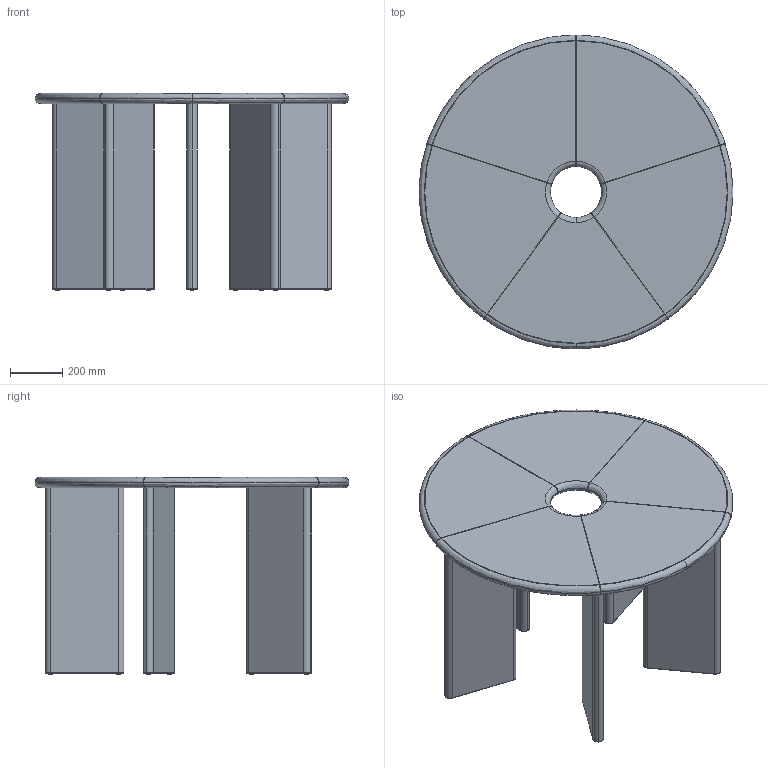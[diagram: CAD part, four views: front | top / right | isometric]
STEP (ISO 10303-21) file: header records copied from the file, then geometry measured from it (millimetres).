
FILE_DESCRIPTION(/* description */ (''),/* implementation_level */ '2;1');
FILE_NAME(/* name */ 'Deya Dining Table - Ø120_Ferm Living_3D',/* time_stamp */ '2026-01-30T13:42:47+01:00',/* author */ (''),/* organization */ (''),/* preprocessor_version */ 'ST-DEVELOPER v19.2',/* originating_system */ 'Rhino 8.19',/* authorisation */ '');
FILE_SCHEMA (('CONFIG_CONTROL_DESIGN'));
Length unit declared in the file: millimetre
Products named in the file (2): Document; Deya Dining Table_3D_01
Bounding box: 1200 x 1200 x 755.5 mm (x, y, z)
Volume: 85166986.8 mm3; surface area: 5232586.8 mm2
Topology: 22 solids, 22 shells, 176 faces, 362 edges, 230 vertices
Faces by surface type: plane 74, cylinder 74, bspline 28
Entity records: 7248 total; most frequent: CARTESIAN_POINT 3572, ORIENTED_EDGE 724, DIRECTION 552, EDGE_CURVE 362, AXIS2_PLACEMENT_3D 350, VERTEX_POINT 230, TRIMMED_CURVE 198, CIRCLE 198
